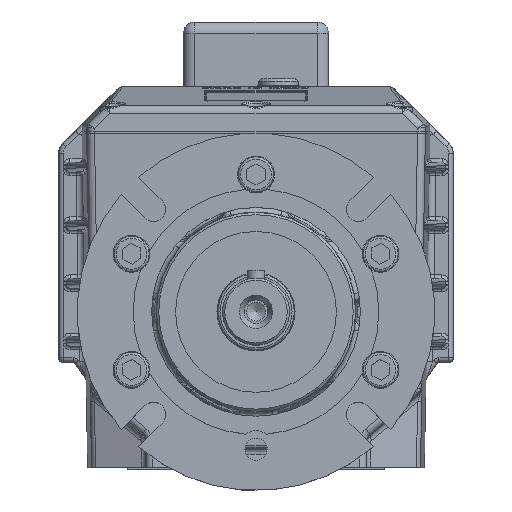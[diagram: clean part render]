
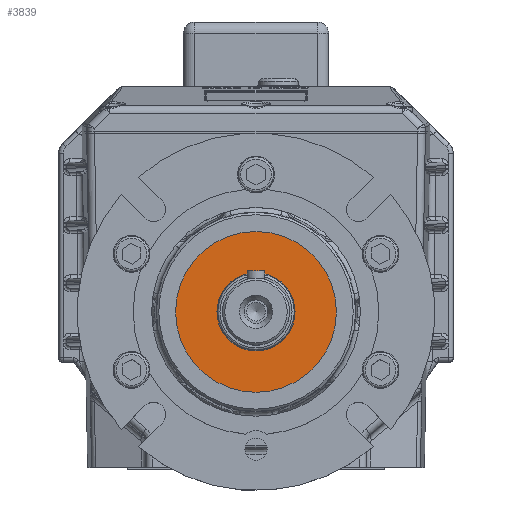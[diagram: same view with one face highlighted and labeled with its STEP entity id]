
A CAD part, top view. The second image highlights one B-rep face of the part: STEP entity #3839.
In plain terms, the highlighted planar face has unit normal (0, 0, 1).
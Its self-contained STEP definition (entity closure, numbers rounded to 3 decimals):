
#3839 = ADVANCED_FACE( '', ( #8399, #8400 ), #8401, .F. );
#8399 = FACE_BOUND( '', #24644, .T. );
#8400 = FACE_OUTER_BOUND( '', #24645, .T. );
#8401 = PLANE( '', #24646 );
#24644 = EDGE_LOOP( '', ( #41325 ) );
#24645 = EDGE_LOOP( '', ( #41326 ) );
#24646 = AXIS2_PLACEMENT_3D( '', #41327, #41328, #41329 );
#41325 = ORIENTED_EDGE( '', *, *, #49255, .T. );
#41326 = ORIENTED_EDGE( '', *, *, #49930, .F. );
#41327 = CARTESIAN_POINT( '', ( 0., 0., 11.5 ) );
#41328 = DIRECTION( '', ( 0., 0., -1. ) );
#41329 = DIRECTION( '', ( 0., 1., 0. ) );
#49255 = EDGE_CURVE( '', #56769, #56769, #56770, .T. );
#49930 = EDGE_CURVE( '', #57609, #57609, #57610, .T. );
#56769 = VERTEX_POINT( '', #70325 );
#56770 = CIRCLE( '', #70326, 17.5 );
#57609 = VERTEX_POINT( '', #71771 );
#57610 = CIRCLE( '', #71772, 36. );
#70325 = CARTESIAN_POINT( '', ( 17.5, 0., 11.5 ) );
#70326 = AXIS2_PLACEMENT_3D( '', #78292, #78293, #78294 );
#71771 = CARTESIAN_POINT( '', ( 36., 0., 11.5 ) );
#71772 = AXIS2_PLACEMENT_3D( '', #79022, #79023, #79024 );
#78292 = CARTESIAN_POINT( '', ( 0., 0., 11.5 ) );
#78293 = DIRECTION( '', ( 0., 0., -1. ) );
#78294 = DIRECTION( '', ( 1., 0., 0. ) );
#79022 = CARTESIAN_POINT( '', ( 0., 0., 11.5 ) );
#79023 = DIRECTION( '', ( 0., 0., -1. ) );
#79024 = DIRECTION( '', ( 1., 0., 0. ) );
